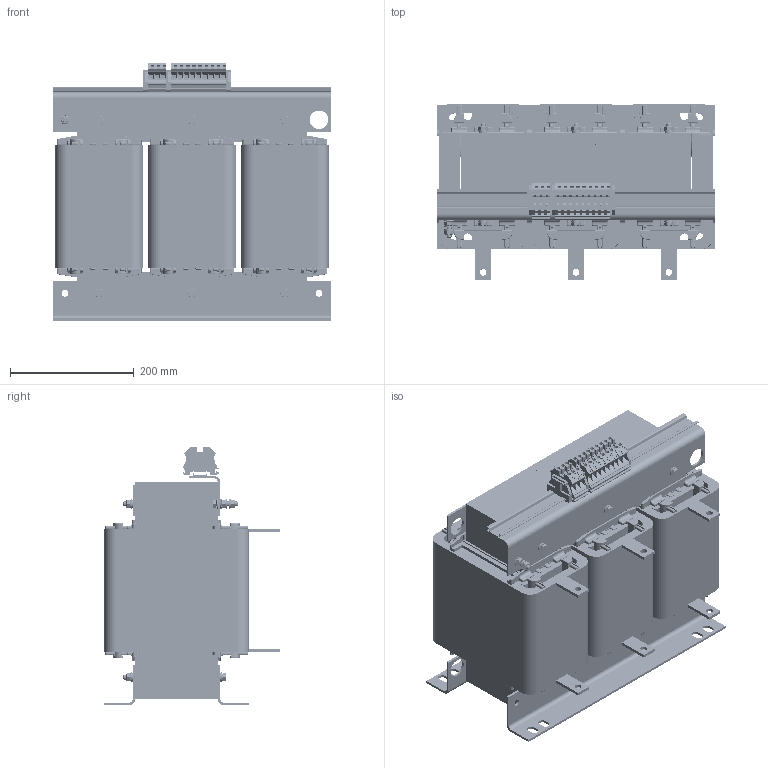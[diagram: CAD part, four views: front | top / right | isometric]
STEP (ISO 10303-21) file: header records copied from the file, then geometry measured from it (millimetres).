
FILE_DESCRIPTION((''),'2;1');
FILE_NAME('C:\Users\fp1\CAD-Daten\DTZ\DTZ25 400 690 110.stp','2014-07-02T09:30:18',('FP1'),(''),'Autodesk Inventor 2013','Autodesk Inventor 2013','');
FILE_SCHEMA(('AUTOMOTIVE_DESIGN { 1 0 10303 214 1 1 1 1 }'));
Length unit declared in the file: millimetre
Products named in the file (1): Bauteil58
Bounding box: 450 x 284.6 x 417 mm (x, y, z)
Volume: 26071568.6 mm3; surface area: 2682838.1 mm2
Topology: 4 solids, 4 shells, 12593 faces, 36123 edges, 23512 vertices
Faces by surface type: plane 9719, cylinder 2157, bspline 332, sphere 168, torus 146, cone 71
Full cylindrical faces by diameter (mm): 6.32 x24, 8 x9, 8.3 x2, 8.4 x2, 11 x9, 11.63 x7, 14 x12, 16 x14, 30 x4
Entity records: 416711 total; most frequent: CARTESIAN_POINT 91267, ORIENTED_EDGE 71566, DIRECTION 63165, EDGE_CURVE 35783, VECTOR 28085, LINE 28085, VERTEX_POINT 23392, AXIS2_PLACEMENT_3D 17540
